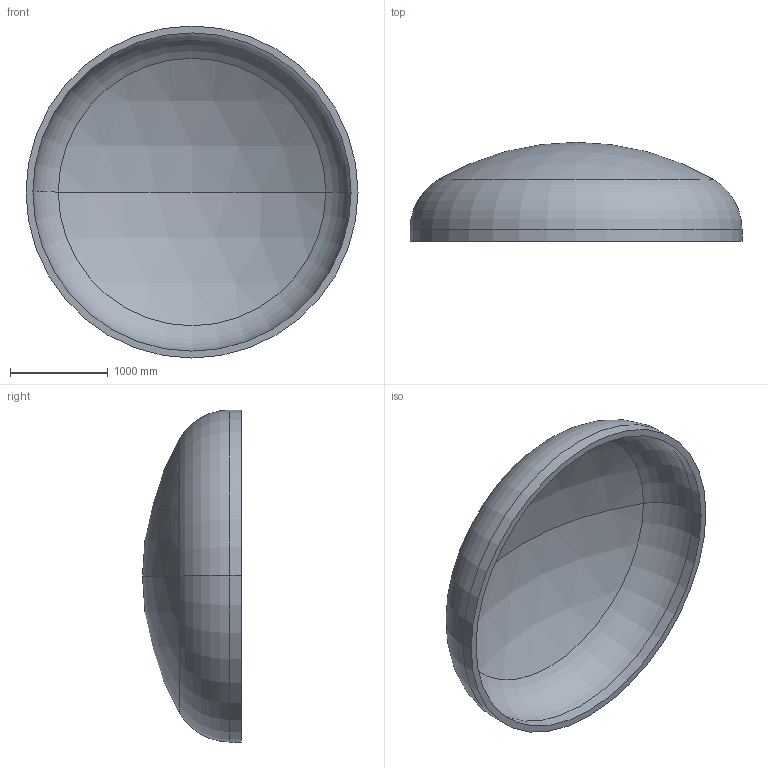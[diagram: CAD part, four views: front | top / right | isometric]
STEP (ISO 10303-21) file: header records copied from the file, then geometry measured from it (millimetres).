
FILE_DESCRIPTION (( 'STEP AP203' ), '1' );
FILE_NAME ('DIN 28013 Korbbogenform_-_Boden DIN 28013 - 3400 x 120 - I - s=70.step', '2016-07-01T19:42:33', ( '' ), ( '' ), 'SwSTEP 2.0', 'SolidWorks 2013', '' );
FILE_SCHEMA (( 'CONFIG_CONTROL_DESIGN' ));
Length unit declared in the file: millimetre
Products named in the file (1): DIN 28013 Korbbogenform_-_Boden DIN 28013 - 3400 x 120 - I - s=70
Bounding box: 3400 x 1013.42 x 3400 mm (x, y, z)
Volume: 945023440.5 mm3; surface area: 27743228.3 mm2
Topology: 1 solids, 1 shells, 13 faces, 24 edges, 14 vertices
Faces by surface type: torus 4, cylinder 4, sphere 4, plane 1
Entity records: 407 total; most frequent: DIRECTION 72, CARTESIAN_POINT 52, ORIENTED_EDGE 48, AXIS2_PLACEMENT_3D 34, EDGE_CURVE 24, CIRCLE 20, EDGE_LOOP 14, VERTEX_POINT 14
